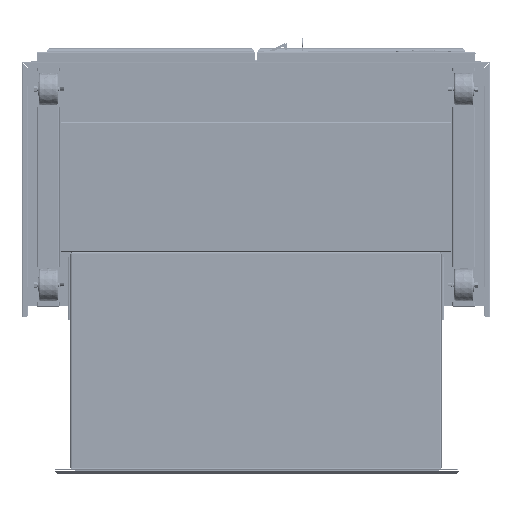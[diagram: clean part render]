
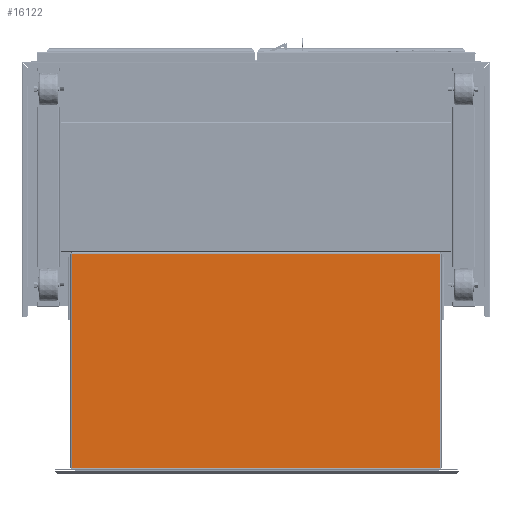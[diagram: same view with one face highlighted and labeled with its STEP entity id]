
A CAD part, front view. The second image highlights one B-rep face of the part: STEP entity #16122.
In plain terms, the highlighted planar face has unit normal (0, -1, 0.024) as drawn and (0, 0, -1) by its records, which use the part's own axes.
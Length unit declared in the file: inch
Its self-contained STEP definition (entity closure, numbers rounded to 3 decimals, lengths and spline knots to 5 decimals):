
#2871 = CARTESIAN_POINT ( 'NONE',  ( 34.63303, 1.49421, 0. ) ) ;
#7388 = VERTEX_POINT ( 'NONE', #29241 ) ;
#8279 = VECTOR ( 'NONE', #35975, 39.37008 ) ;
#9668 = DIRECTION ( 'NONE',  ( -1., 0., 0. ) ) ;
#16122 = ADVANCED_FACE ( 'NONE', ( #68076 ), #96923, .F. ) ;
#19310 = DIRECTION ( 'NONE',  ( 0., 1., 0. ) ) ;
#21200 = VECTOR ( 'NONE', #156912, 39.37008 ) ;
#22783 = EDGE_CURVE ( 'NONE', #105242, #156406, #87703, .T. ) ;
#24487 = VERTEX_POINT ( 'NONE', #134467 ) ;
#29241 = CARTESIAN_POINT ( 'NONE',  ( 14.92088, 35.33526, 0. ) ) ;
#33811 = EDGE_CURVE ( 'NONE', #109941, #43905, #75670, .T. ) ;
#34491 = CARTESIAN_POINT ( 'NONE',  ( 14.87703, 1.49421, 0. ) ) ;
#35975 = DIRECTION ( 'NONE',  ( 0., 1., 0. ) ) ;
#37154 = CARTESIAN_POINT ( 'NONE',  ( 34.62918, 1.50296, 0. ) ) ;
#37482 = VECTOR ( 'NONE', #114600, 39.37008 ) ;
#40727 = VECTOR ( 'NONE', #199205, 39.37008 ) ;
#42601 = ORIENTED_EDGE ( 'NONE', *, *, #202988, .F. ) ;
#43905 = VERTEX_POINT ( 'NONE', #34491 ) ;
#45535 = CARTESIAN_POINT ( 'NONE',  ( 34.62918, 35.32651, 0. ) ) ;
#51796 = ORIENTED_EDGE ( 'NONE', *, *, #147509, .F. ) ;
#53127 = LINE ( 'NONE', #55138, #145565 ) ;
#54919 = CARTESIAN_POINT ( 'NONE',  ( 34.62918, 35.32651, 0. ) ) ;
#55138 = CARTESIAN_POINT ( 'NONE',  ( 14.92088, 1.49421, 0. ) ) ;
#58593 = ORIENTED_EDGE ( 'NONE', *, *, #33811, .F. ) ;
#59227 = CARTESIAN_POINT ( 'NONE',  ( 14.87703, 1.49421, 0. ) ) ;
#62291 = DIRECTION ( 'NONE',  ( 0., -1., 0. ) ) ;
#64848 = ORIENTED_EDGE ( 'NONE', *, *, #155945, .F. ) ;
#65502 = ORIENTED_EDGE ( 'NONE', *, *, #84288, .F. ) ;
#68076 = FACE_OUTER_BOUND ( 'NONE', #105458, .T. ) ;
#68538 = DIRECTION ( 'NONE',  ( 1., 0., 0. ) ) ;
#69646 = CARTESIAN_POINT ( 'NONE',  ( 34.62918, 35.33911, 0. ) ) ;
#72911 = LINE ( 'NONE', #153112, #157848 ) ;
#74947 = DIRECTION ( 'NONE',  ( -1., 0., 0. ) ) ;
#75670 = LINE ( 'NONE', #59227, #95865 ) ;
#79475 = VERTEX_POINT ( 'NONE', #171372 ) ;
#79819 = VECTOR ( 'NONE', #137009, 39.37008 ) ;
#80465 = DIRECTION ( 'NONE',  ( 1., 0., 0. ) ) ;
#80908 = LINE ( 'NONE', #2871, #183824 ) ;
#81570 = VERTEX_POINT ( 'NONE', #108269 ) ;
#84288 = EDGE_CURVE ( 'NONE', #139170, #105242, #145489, .T. ) ;
#87703 = LINE ( 'NONE', #103140, #175113 ) ;
#89274 = LINE ( 'NONE', #136615, #40727 ) ;
#89689 = LINE ( 'NONE', #106130, #79819 ) ;
#90727 = LINE ( 'NONE', #45535, #116735 ) ;
#95865 = VECTOR ( 'NONE', #62291, 39.37008 ) ;
#96923 = PLANE ( 'NONE',  #132538 ) ;
#99612 = ORIENTED_EDGE ( 'NONE', *, *, #22783, .F. ) ;
#103140 = CARTESIAN_POINT ( 'NONE',  ( 14.92088, 35.33911, 0. ) ) ;
#105242 = VERTEX_POINT ( 'NONE', #69646 ) ;
#105458 = EDGE_LOOP ( 'NONE', ( #58593, #42601, #121631, #99612, #65502, #138174, #167582, #116981, #139485, #139650, #51796, #64848 ) ) ;
#105544 = LINE ( 'NONE', #138460, #21200 ) ;
#106130 = CARTESIAN_POINT ( 'NONE',  ( 14.92088, -0.28382, 0. ) ) ;
#108269 = CARTESIAN_POINT ( 'NONE',  ( 34.62918, 1.49036, 0. ) ) ;
#109941 = VERTEX_POINT ( 'NONE', #116193 ) ;
#112379 = DIRECTION ( 'NONE',  ( 0., 0., 1. ) ) ;
#114600 = DIRECTION ( 'NONE',  ( 0., 1., 0. ) ) ;
#116143 = LINE ( 'NONE', #179755, #8279 ) ;
#116193 = CARTESIAN_POINT ( 'NONE',  ( 14.87703, 35.33526, 0. ) ) ;
#116735 = VECTOR ( 'NONE', #153452, 39.37008 ) ;
#116981 = ORIENTED_EDGE ( 'NONE', *, *, #128697, .F. ) ;
#118325 = VERTEX_POINT ( 'NONE', #183504 ) ;
#121631 = ORIENTED_EDGE ( 'NONE', *, *, #202157, .F. ) ;
#128697 = EDGE_CURVE ( 'NONE', #24487, #79475, #148162, .T. ) ;
#132538 = AXIS2_PLACEMENT_3D ( 'NONE', #192448, #112379, #80465 ) ;
#134467 = CARTESIAN_POINT ( 'NONE',  ( 34.62918, 1.50296, 0. ) ) ;
#136615 = CARTESIAN_POINT ( 'NONE',  ( 14.92088, 1.49036, 0. ) ) ;
#137009 = DIRECTION ( 'NONE',  ( 0., -1., 0. ) ) ;
#138109 = CARTESIAN_POINT ( 'NONE',  ( 14.92088, 35.33911, 0. ) ) ;
#138174 = ORIENTED_EDGE ( 'NONE', *, *, #159545, .F. ) ;
#138460 = CARTESIAN_POINT ( 'NONE',  ( 14.92088, 35.33526, 0. ) ) ;
#139170 = VERTEX_POINT ( 'NONE', #188806 ) ;
#139485 = ORIENTED_EDGE ( 'NONE', *, *, #164472, .F. ) ;
#139650 = ORIENTED_EDGE ( 'NONE', *, *, #156704, .F. ) ;
#145489 = LINE ( 'NONE', #54919, #37482 ) ;
#145565 = VECTOR ( 'NONE', #68538, 39.37008 ) ;
#147509 = EDGE_CURVE ( 'NONE', #173142, #118325, #89689, .T. ) ;
#148162 = LINE ( 'NONE', #37154, #177400 ) ;
#153112 = CARTESIAN_POINT ( 'NONE',  ( 14.71088, 35.33526, 0. ) ) ;
#153199 = VERTEX_POINT ( 'NONE', #159112 ) ;
#153452 = DIRECTION ( 'NONE',  ( -1., 0., 0. ) ) ;
#155945 = EDGE_CURVE ( 'NONE', #43905, #173142, #53127, .T. ) ;
#156406 = VERTEX_POINT ( 'NONE', #138109 ) ;
#156704 = EDGE_CURVE ( 'NONE', #118325, #81570, #89274, .T. ) ;
#156912 = DIRECTION ( 'NONE',  ( 0., -1., 0. ) ) ;
#157848 = VECTOR ( 'NONE', #74947, 39.37008 ) ;
#159112 = CARTESIAN_POINT ( 'NONE',  ( 34.63303, 35.32651, 0. ) ) ;
#159545 = EDGE_CURVE ( 'NONE', #153199, #139170, #90727, .T. ) ;
#160544 = DIRECTION ( 'NONE',  ( 1., 0., 0. ) ) ;
#164472 = EDGE_CURVE ( 'NONE', #81570, #24487, #116143, .T. ) ;
#167582 = ORIENTED_EDGE ( 'NONE', *, *, #197140, .F. ) ;
#171372 = CARTESIAN_POINT ( 'NONE',  ( 34.63303, 1.50296, 0. ) ) ;
#173142 = VERTEX_POINT ( 'NONE', #189203 ) ;
#175113 = VECTOR ( 'NONE', #9668, 39.37008 ) ;
#177400 = VECTOR ( 'NONE', #160544, 39.37008 ) ;
#179755 = CARTESIAN_POINT ( 'NONE',  ( 34.62918, 1.50296, 0. ) ) ;
#183504 = CARTESIAN_POINT ( 'NONE',  ( 14.92088, 1.49036, 0. ) ) ;
#183824 = VECTOR ( 'NONE', #19310, 39.37008 ) ;
#188806 = CARTESIAN_POINT ( 'NONE',  ( 34.62918, 35.32651, 0. ) ) ;
#189203 = CARTESIAN_POINT ( 'NONE',  ( 14.92088, 1.49421, 0. ) ) ;
#192448 = CARTESIAN_POINT ( 'NONE',  ( 14.92088, 1.49421, 0. ) ) ;
#197140 = EDGE_CURVE ( 'NONE', #79475, #153199, #80908, .T. ) ;
#199205 = DIRECTION ( 'NONE',  ( 1., 0., 0. ) ) ;
#202157 = EDGE_CURVE ( 'NONE', #156406, #7388, #105544, .T. ) ;
#202988 = EDGE_CURVE ( 'NONE', #7388, #109941, #72911, .T. ) ;
